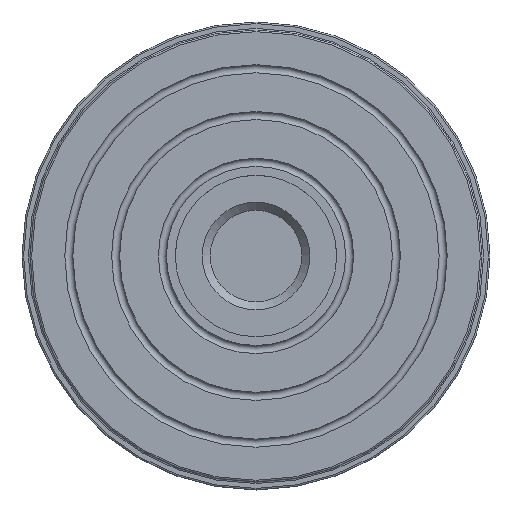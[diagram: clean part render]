
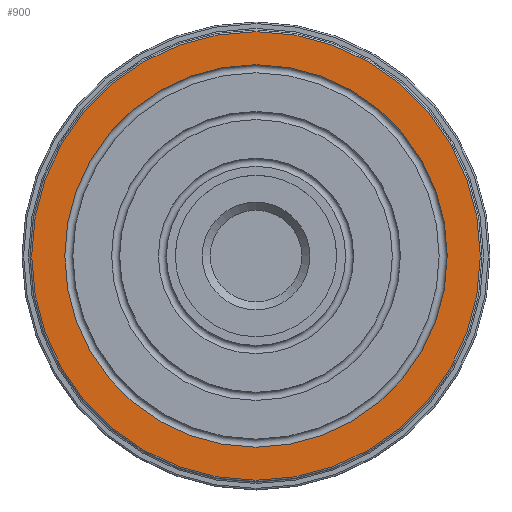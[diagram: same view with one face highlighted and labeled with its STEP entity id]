
A CAD part, top view. The second image highlights one B-rep face of the part: STEP entity #900.
In plain terms, the highlighted planar face has unit normal (0, 0, 1).
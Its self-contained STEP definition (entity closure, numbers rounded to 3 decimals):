
#900=ADVANCED_FACE('',(#1671,#1673),#1675,.T.);
#1671=FACE_BOUND('',#1672,.T.);
#1672=EDGE_LOOP('',(#4959));
#1673=FACE_BOUND('',#1674,.T.);
#1674=EDGE_LOOP('',(#4960));
#1675=PLANE('',#1676);
#1676=AXIS2_PLACEMENT_3D('',#1677,#1678,#1679);
#1677=CARTESIAN_POINT('',(0.,0.,0.));
#1678=DIRECTION('',(0.,0.,1.));
#1679=DIRECTION('',(0.,1.,0.));
#4959=ORIENTED_EDGE('',*,*,#5333,.F.);
#4960=ORIENTED_EDGE('',*,*,#5335,.T.);
#5333=EDGE_CURVE('',#5807,#5807,#5808,.T.);
#5335=EDGE_CURVE('',#5811,#5811,#5812,.T.);
#5807=VERTEX_POINT('',#7985);
#5808=CIRCLE('',#7986,27.8);
#5811=VERTEX_POINT('',#7995);
#5812=CIRCLE('',#7996,23.7);
#7985=CARTESIAN_POINT('',(0.,27.8,0.));
#7986=AXIS2_PLACEMENT_3D('',#7987,#7988,#7989);
#7987=CARTESIAN_POINT('',(0.,0.,0.));
#7988=DIRECTION('',(0.,0.,-1.));
#7989=DIRECTION('',(0.,1.,0.));
#7995=CARTESIAN_POINT('',(0.,23.7,0.));
#7996=AXIS2_PLACEMENT_3D('',#7997,#7998,#7999);
#7997=CARTESIAN_POINT('',(0.,0.,0.));
#7998=DIRECTION('',(0.,0.,-1.));
#7999=DIRECTION('',(0.,1.,0.));
